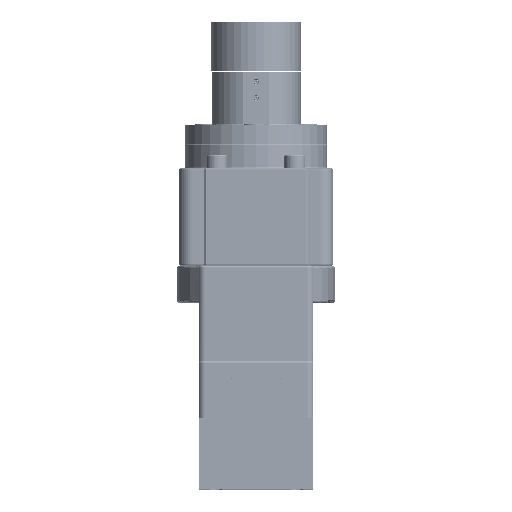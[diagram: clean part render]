
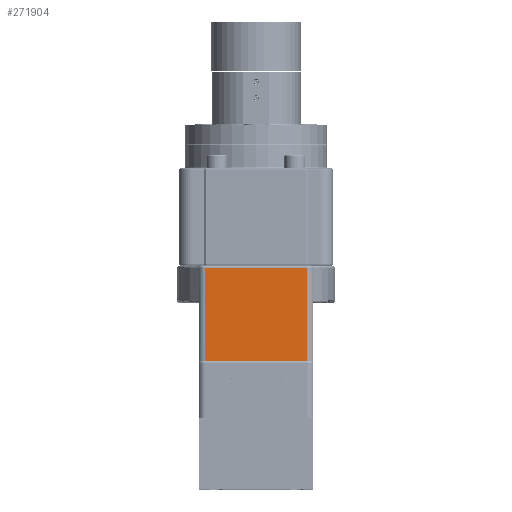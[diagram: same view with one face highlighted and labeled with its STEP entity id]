
A CAD part, top view. The second image highlights one B-rep face of the part: STEP entity #271904.
In plain terms, the highlighted planar face has unit normal (0, 0, 1).
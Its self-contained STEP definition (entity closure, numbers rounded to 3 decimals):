
#2798 = DIRECTION ( 'NONE',  ( -1., 0., 0. ) ) ;
#6385 = DIRECTION ( 'NONE',  ( 0., 1., 0. ) ) ;
#13839 = VECTOR ( 'NONE', #2798, 1000. ) ;
#22165 = CARTESIAN_POINT ( 'NONE',  ( -31.5, 137.07, -29.1 ) ) ;
#29541 = LINE ( 'NONE', #88358, #13839 ) ;
#40087 = ORIENTED_EDGE ( 'NONE', *, *, #67939, .T. ) ;
#45799 = PLANE ( 'NONE',  #87600 ) ;
#48797 = EDGE_CURVE ( 'NONE', #89621, #141469, #247497, .T. ) ;
#56489 = CARTESIAN_POINT ( 'NONE',  ( -31.5, 79.5, -29.1 ) ) ;
#67939 = EDGE_CURVE ( 'NONE', #141469, #349151, #29541, .T. ) ;
#75263 = LINE ( 'NONE', #348621, #261747 ) ;
#87600 = AXIS2_PLACEMENT_3D ( 'NONE', #156521, #126161, #342375 ) ;
#88358 = CARTESIAN_POINT ( 'NONE',  ( -31.5, 137.07, -29.1 ) ) ;
#89621 = VERTEX_POINT ( 'NONE', #295682 ) ;
#126161 = DIRECTION ( 'NONE',  ( 0., 0., -1. ) ) ;
#141469 = VERTEX_POINT ( 'NONE', #336086 ) ;
#156521 = CARTESIAN_POINT ( 'NONE',  ( -35.5, 188.753, -29.1 ) ) ;
#165179 = VECTOR ( 'NONE', #317511, 1000. ) ;
#171889 = EDGE_LOOP ( 'NONE', ( #327469, #40087, #289900, #194616 ) ) ;
#194616 = ORIENTED_EDGE ( 'NONE', *, *, #336428, .F. ) ;
#198046 = LINE ( 'NONE', #307057, #165179 ) ;
#213494 = EDGE_CURVE ( 'NONE', #349151, #304877, #198046, .T. ) ;
#218130 = DIRECTION ( 'NONE',  ( -1., 0., 0. ) ) ;
#247497 = LINE ( 'NONE', #251049, #318147 ) ;
#251049 = CARTESIAN_POINT ( 'NONE',  ( 31.5, 138.57, -29.1 ) ) ;
#260287 = FACE_OUTER_BOUND ( 'NONE', #171889, .T. ) ;
#261747 = VECTOR ( 'NONE', #218130, 1000. ) ;
#271904 = ADVANCED_FACE ( 'NONE', ( #260287 ), #45799, .F. ) ;
#289900 = ORIENTED_EDGE ( 'NONE', *, *, #213494, .T. ) ;
#295682 = CARTESIAN_POINT ( 'NONE',  ( 31.5, 79.5, -29.1 ) ) ;
#304877 = VERTEX_POINT ( 'NONE', #56489 ) ;
#307057 = CARTESIAN_POINT ( 'NONE',  ( -31.5, 79.5, -29.1 ) ) ;
#317511 = DIRECTION ( 'NONE',  ( 0., -1., 0. ) ) ;
#318147 = VECTOR ( 'NONE', #6385, 1000. ) ;
#327469 = ORIENTED_EDGE ( 'NONE', *, *, #48797, .T. ) ;
#336086 = CARTESIAN_POINT ( 'NONE',  ( 31.5, 137.07, -29.1 ) ) ;
#336428 = EDGE_CURVE ( 'NONE', #89621, #304877, #75263, .T. ) ;
#342375 = DIRECTION ( 'NONE',  ( -1., 0., 0. ) ) ;
#348621 = CARTESIAN_POINT ( 'NONE',  ( 35.5, 79.5, -29.1 ) ) ;
#349151 = VERTEX_POINT ( 'NONE', #22165 ) ;
